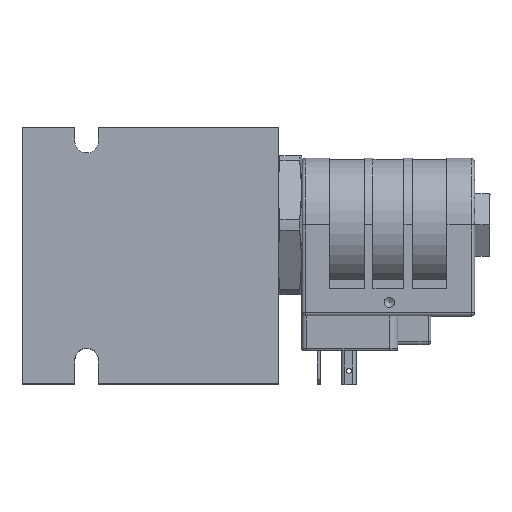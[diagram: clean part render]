
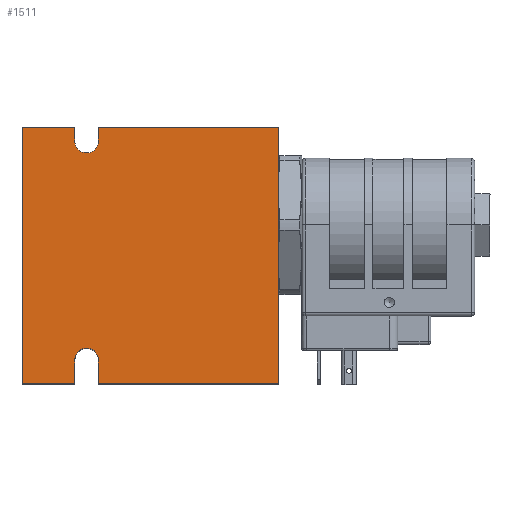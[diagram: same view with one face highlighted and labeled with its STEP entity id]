
A CAD part, top view. The second image highlights one B-rep face of the part: STEP entity #1511.
In plain terms, the highlighted planar face has unit normal (0, 0, 1).
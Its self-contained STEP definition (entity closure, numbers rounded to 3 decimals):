
#1511 = ADVANCED_FACE( '', ( #3294 ), #3295, .F. );
#3294 = FACE_OUTER_BOUND( '', #5540, .T. );
#3295 = PLANE( '', #5541 );
#5540 = EDGE_LOOP( '', ( #9575, #9576, #9577, #9578, #9579, #9580, #9581, #9582, #9583, #9584, #9585, #9586 ) );
#5541 = AXIS2_PLACEMENT_3D( '', #9587, #9588, #9589 );
#9575 = ORIENTED_EDGE( '', *, *, #14015, .F. );
#9576 = ORIENTED_EDGE( '', *, *, #14319, .F. );
#9577 = ORIENTED_EDGE( '', *, *, #14320, .F. );
#9578 = ORIENTED_EDGE( '', *, *, #13234, .F. );
#9579 = ORIENTED_EDGE( '', *, *, #13736, .F. );
#9580 = ORIENTED_EDGE( '', *, *, #14321, .F. );
#9581 = ORIENTED_EDGE( '', *, *, #14322, .F. );
#9582 = ORIENTED_EDGE( '', *, *, #14323, .T. );
#9583 = ORIENTED_EDGE( '', *, *, #14324, .T. );
#9584 = ORIENTED_EDGE( '', *, *, #14325, .T. );
#9585 = ORIENTED_EDGE( '', *, *, #14252, .F. );
#9586 = ORIENTED_EDGE( '', *, *, #13968, .F. );
#9587 = CARTESIAN_POINT( '', ( 0., 0., 50.8 ) );
#9588 = DIRECTION( '', ( 0., 0., -1. ) );
#9589 = DIRECTION( '', ( -1., 0., 0. ) );
#13234 = EDGE_CURVE( '', #15850, #15852, #15853, .T. );
#13736 = EDGE_CURVE( '', #16674, #15850, #16676, .T. );
#13968 = EDGE_CURVE( '', #17042, #17044, #17045, .T. );
#14015 = EDGE_CURVE( '', #17112, #17042, #17115, .T. );
#14252 = EDGE_CURVE( '', #17044, #17461, #17462, .T. );
#14319 = EDGE_CURVE( '', #17560, #17112, #17561, .T. );
#14320 = EDGE_CURVE( '', #15852, #17560, #17562, .T. );
#14321 = EDGE_CURVE( '', #17563, #16674, #17564, .T. );
#14322 = EDGE_CURVE( '', #17565, #17563, #17566, .T. );
#14323 = EDGE_CURVE( '', #17565, #17567, #17568, .T. );
#14324 = EDGE_CURVE( '', #17567, #17569, #17570, .T. );
#14325 = EDGE_CURVE( '', #17569, #17461, #17571, .T. );
#15850 = VERTEX_POINT( '', #20101 );
#15852 = VERTEX_POINT( '', #20104 );
#15853 = LINE( '', #20105, #20106 );
#16674 = VERTEX_POINT( '', #21518 );
#16676 = LINE( '', #21521, #21522 );
#17042 = VERTEX_POINT( '', #22423 );
#17044 = VERTEX_POINT( '', #22426 );
#17045 = LINE( '', #22427, #22428 );
#17112 = VERTEX_POINT( '', #22534 );
#17115 = LINE( '', #22538, #22539 );
#17461 = VERTEX_POINT( '', #23427 );
#17462 = LINE( '', #23428, #23429 );
#17560 = VERTEX_POINT( '', #23586 );
#17561 = LINE( '', #23587, #23588 );
#17562 = CIRCLE( '', #23589, 3.5 );
#17563 = VERTEX_POINT( '', #23590 );
#17564 = LINE( '', #23591, #23592 );
#17565 = VERTEX_POINT( '', #23593 );
#17566 = LINE( '', #23594, #23595 );
#17567 = VERTEX_POINT( '', #23596 );
#17568 = LINE( '', #23597, #23598 );
#17569 = VERTEX_POINT( '', #23599 );
#17570 = CIRCLE( '', #23600, 3.5 );
#17571 = LINE( '', #23601, #23602 );
#20101 = CARTESIAN_POINT( '', ( -15.4, -38.1, 50.8 ) );
#20104 = CARTESIAN_POINT( '', ( -15.4, -31., 50.8 ) );
#20105 = CARTESIAN_POINT( '', ( -15.4, -31., 50.8 ) );
#20106 = VECTOR( '', #27122, 1000. );
#21518 = CARTESIAN_POINT( '', ( 38.1, -38.1, 50.8 ) );
#21521 = CARTESIAN_POINT( '', ( 38.1, -38.1, 50.8 ) );
#21522 = VECTOR( '', #27623, 1000. );
#22423 = CARTESIAN_POINT( '', ( -38.1, -38.1, 50.8 ) );
#22426 = CARTESIAN_POINT( '', ( -38.1, 38.1, 50.8 ) );
#22427 = CARTESIAN_POINT( '', ( -38.1, -38.1, 50.8 ) );
#22428 = VECTOR( '', #27783, 1000. );
#22534 = CARTESIAN_POINT( '', ( -22.4, -38.1, 50.8 ) );
#22538 = CARTESIAN_POINT( '', ( 38.1, -38.1, 50.8 ) );
#22539 = VECTOR( '', #27809, 1000. );
#23427 = CARTESIAN_POINT( '', ( -22.4, 38.1, 50.8 ) );
#23428 = CARTESIAN_POINT( '', ( -38.1, 38.1, 50.8 ) );
#23429 = VECTOR( '', #27979, 1000. );
#23586 = CARTESIAN_POINT( '', ( -22.4, -31., 50.8 ) );
#23587 = CARTESIAN_POINT( '', ( -22.4, -31., 50.8 ) );
#23588 = VECTOR( '', #28049, 1000. );
#23589 = AXIS2_PLACEMENT_3D( '', #28050, #28051, #28052 );
#23590 = CARTESIAN_POINT( '', ( 38.1, 38.1, 50.8 ) );
#23591 = CARTESIAN_POINT( '', ( 38.1, 38.1, 50.8 ) );
#23592 = VECTOR( '', #28053, 1000. );
#23593 = CARTESIAN_POINT( '', ( -15.4, 38.1, 50.8 ) );
#23594 = CARTESIAN_POINT( '', ( -38.1, 38.1, 50.8 ) );
#23595 = VECTOR( '', #28054, 1000. );
#23596 = CARTESIAN_POINT( '', ( -15.4, 34., 50.8 ) );
#23597 = CARTESIAN_POINT( '', ( -15.4, 34., 50.8 ) );
#23598 = VECTOR( '', #28055, 1000. );
#23599 = CARTESIAN_POINT( '', ( -22.4, 34., 50.8 ) );
#23600 = AXIS2_PLACEMENT_3D( '', #28056, #28057, #28058 );
#23601 = CARTESIAN_POINT( '', ( -22.4, 34., 50.8 ) );
#23602 = VECTOR( '', #28059, 1000. );
#27122 = DIRECTION( '', ( 0., 1., 0. ) );
#27623 = DIRECTION( '', ( -1., 0., 0. ) );
#27783 = DIRECTION( '', ( 0., 1., 0. ) );
#27809 = DIRECTION( '', ( -1., 0., 0. ) );
#27979 = DIRECTION( '', ( 1., 0., 0. ) );
#28049 = DIRECTION( '', ( 0., -1., 0. ) );
#28050 = CARTESIAN_POINT( '', ( -18.9, -31., 50.8 ) );
#28051 = DIRECTION( '', ( 0., 0., 1. ) );
#28052 = DIRECTION( '', ( 1., 0., 0. ) );
#28053 = DIRECTION( '', ( 0., -1., 0. ) );
#28054 = DIRECTION( '', ( 1., 0., 0. ) );
#28055 = DIRECTION( '', ( 0., -1., 0. ) );
#28056 = CARTESIAN_POINT( '', ( -18.9, 34., 50.8 ) );
#28057 = DIRECTION( '', ( 0., 0., -1. ) );
#28058 = DIRECTION( '', ( 1., 0., 0. ) );
#28059 = DIRECTION( '', ( 0., 1., 0. ) );
